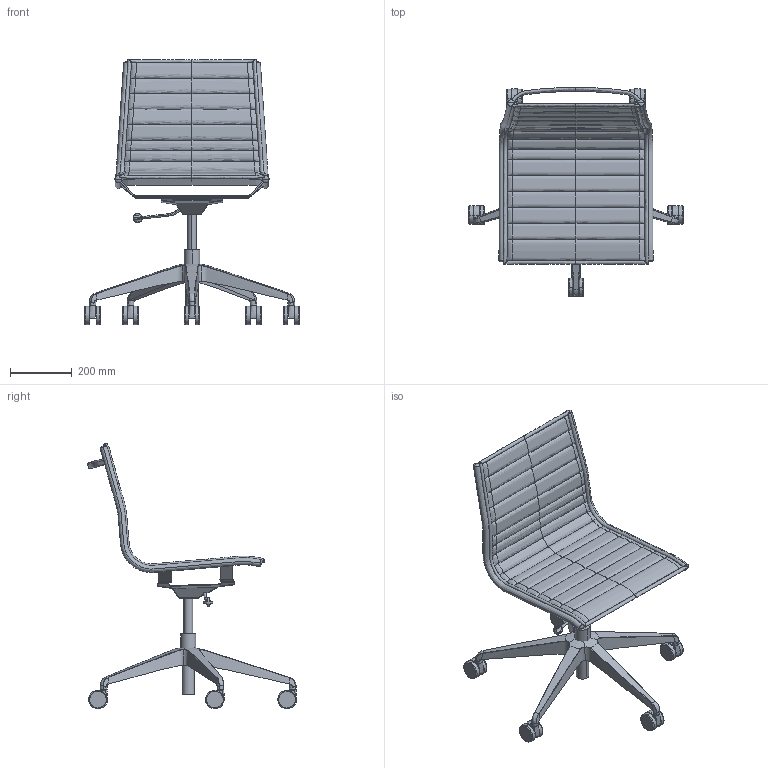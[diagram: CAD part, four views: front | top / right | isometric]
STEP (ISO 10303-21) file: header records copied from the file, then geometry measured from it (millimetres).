
FILE_DESCRIPTION(/* description */ (''),/* implementation_level */ '2;1');
FILE_NAME(/* name */ 'FLY722~1',/* time_stamp */ '2017-10-19T14:49:43+02:00',/* author */ (''),/* organization */ (''),/* preprocessor_version */ 'ST-DEVELOPER v15',/* originating_system */ '',/* authorisation */ '');
FILE_SCHEMA (('CONFIG_CONTROL_DESIGN'));
Length unit declared in the file: millimetre
Products named in the file (1): Document
Bounding box: 694.82 x 677.87 x 861.82 mm (x, y, z)
Volume: 1419068.5 mm3; surface area: 1518308.1 mm2
Topology: 10 solids, 42 shells, 461 faces, 1110 edges, 651 vertices
Faces by surface type: bspline 376, plane 85
Entity records: 33011 total; most frequent: CARTESIAN_POINT 26718, ORIENTED_EDGE 1982, EDGE_CURVE 1070, VERTEX_POINT 645, B_SPLINE_CURVE_WITH_KNOTS 596, ADVANCED_FACE 461, FACE_OUTER_BOUND 461, EDGE_LOOP 461
